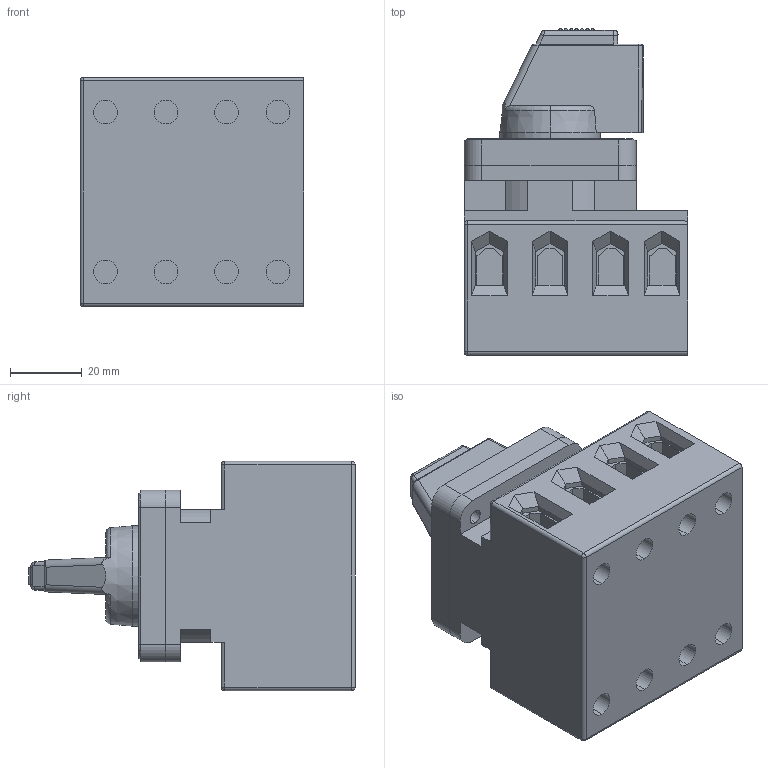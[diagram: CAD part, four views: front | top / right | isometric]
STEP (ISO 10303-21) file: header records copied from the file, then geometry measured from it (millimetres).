
FILE_DESCRIPTION (( 'STEP AP203' ), '1' );
FILE_NAME ('LTS63_80 EH1 A4.STEP', '2014-05-13T08:18:18', ( '' ), ( '' ), 'SwSTEP 2.0', 'SolidWorks 2014', '' );
FILE_SCHEMA (( 'CONFIG_CONTROL_DESIGN' ));
Length unit declared in the file: millimetre
Products named in the file (3): Schalterkörper LTS63_80 E A4; SV1_48x48; LTS63_80 EH1 A4
Assembly tree (2 placements, depth 2):
  LTS63_80 EH1 A4
    Schalterkörper LTS63_80 E A4
    SV1_48x48
Bounding box: 62.5 x 91.1 x 64 mm (x, y, z)
Volume: 195477.9 mm3; surface area: 35871.4 mm2
Topology: 2 solids, 2 shells, 389 faces, 968 edges, 615 vertices
Faces by surface type: plane 257, cylinder 78, bspline 42, torus 5, sphere 4, cone 3
Entity records: 13929 total; most frequent: CARTESIAN_POINT 4626, ORIENTED_EDGE 1924, DIRECTION 1727, EDGE_CURVE 962, VECTOR 695, LINE 695, VERTEX_POINT 615, AXIS2_PLACEMENT_3D 516
